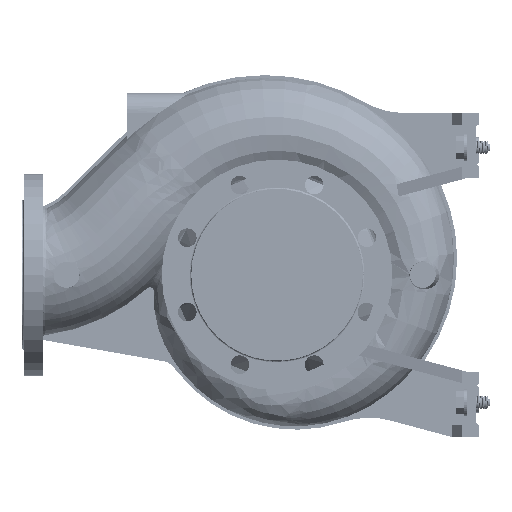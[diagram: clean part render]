
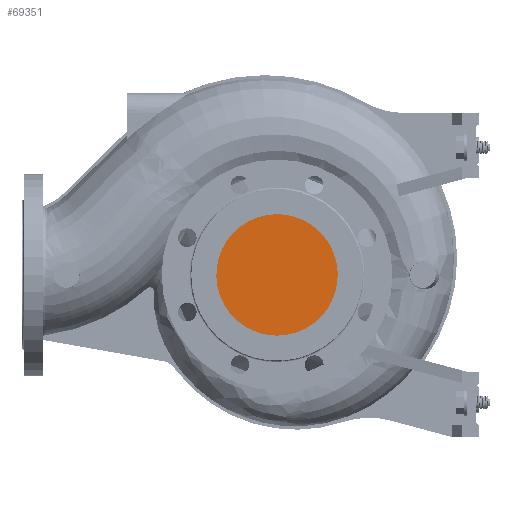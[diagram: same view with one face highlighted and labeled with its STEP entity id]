
A CAD part, left-side view. The second image highlights one B-rep face of the part: STEP entity #69351.
In plain terms, the highlighted planar face has unit normal (-1, 0, 0).
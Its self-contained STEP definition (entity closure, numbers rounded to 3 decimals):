
#928 = VERTEX_POINT ( 'NONE', #35794 ) ;
#4816 = CARTESIAN_POINT ( 'NONE',  ( -138., -76.373, -75.9 ) ) ;
#6345 = CARTESIAN_POINT ( 'NONE',  ( -138., 0., 75. ) ) ;
#8124 = CARTESIAN_POINT ( 'NONE',  ( -138., 41.937, -62.763 ) ) ;
#12812 = B_SPLINE_CURVE_WITH_KNOTS ( 'NONE', 3,
 ( #6345, #43821, #51849, #79258, #162281, #149491, #106627, #50077, #175095, #117632, #92954, #93868, #134886, #148598, #133073, #132193, #8124, #105751, #107532, #175988, #103945, #65586, #121184 ),
 .UNSPECIFIED., .F., .F.,
 ( 4, 1, 1, 1, 1, 1, 1, 1, 1, 1, 1, 1, 1, 1, 1, 1, 1, 1, 1, 1, 4 ),
 ( 0., 0.015, 0.029, 0.044, 0.059, 0.074, 0.088, 0.103, 0.118, 0.133, 0.147, 0.155, 0.162, 0.169, 0.177, 0.191, 0.206, 0.214, 0.221, 0.228, 0.236 ),
 .UNSPECIFIED. ) ;
#14297 = CARTESIAN_POINT ( 'NONE',  ( -138., -21.807, -71.886 ) ) ;
#14922 = PLANE ( 'NONE',  #162364 ) ;
#14929 = VERTEX_POINT ( 'NONE', #167201 ) ;
#16112 = CARTESIAN_POINT ( 'NONE',  ( -138., -41.936, 62.762 ) ) ;
#17930 = CARTESIAN_POINT ( 'NONE',  ( -138., -14.726, 74.033 ) ) ;
#28584 = FACE_OUTER_BOUND ( 'NONE', #125689, .T. ) ;
#29815 = CARTESIAN_POINT ( 'NONE',  ( -138., -70.45, -26.534 ) ) ;
#31384 = B_SPLINE_CURVE_WITH_KNOTS ( 'NONE', 3,
 ( #112810, #139248, #170283, #125583, #14297, #58085, #100059, #45271, #154785, #114642, #100939, #29815, #99140, #156592, #87268, #169387, #85456, #69961, #16112, #129206, #17930, #98222, #167575 ),
 .UNSPECIFIED., .F., .F.,
 ( 4, 1, 1, 1, 1, 1, 1, 1, 1, 1, 1, 1, 1, 1, 1, 1, 1, 1, 1, 1, 4 ),
 ( 0., 0.007, 0.015, 0.022, 0.029, 0.044, 0.059, 0.066, 0.074, 0.081, 0.088, 0.103, 0.118, 0.133, 0.147, 0.162, 0.177, 0.191, 0.206, 0.221, 0.236 ),
 .UNSPECIFIED. ) ;
#35794 = CARTESIAN_POINT ( 'NONE',  ( -138., 0., 75. ) ) ;
#43821 = CARTESIAN_POINT ( 'NONE',  ( -138., 4.909, 75. ) ) ;
#45271 = CARTESIAN_POINT ( 'NONE',  ( -138., -51.474, -54.933 ) ) ;
#50077 = CARTESIAN_POINT ( 'NONE',  ( -138., 69.738, 28.886 ) ) ;
#51849 = CARTESIAN_POINT ( 'NONE',  ( -138., 14.726, 74.033 ) ) ;
#58085 = CARTESIAN_POINT ( 'NONE',  ( -138., -31.054, -68.578 ) ) ;
#65586 = CARTESIAN_POINT ( 'NONE',  ( -138., 2.453, -75. ) ) ;
#69351 = ADVANCED_FACE ( 'NONE', ( #28584 ), #14922, .T. ) ;
#69961 = CARTESIAN_POINT ( 'NONE',  ( -138., -53.375, 53.375 ) ) ;
#79258 = CARTESIAN_POINT ( 'NONE',  ( -138., 28.886, 69.738 ) ) ;
#85456 = CARTESIAN_POINT ( 'NONE',  ( -138., -62.762, 41.936 ) ) ;
#87268 = CARTESIAN_POINT ( 'NONE',  ( -138., -74.033, 14.726 ) ) ;
#87359 = ORIENTED_EDGE ( 'NONE', *, *, #123652, .T. ) ;
#92954 = CARTESIAN_POINT ( 'NONE',  ( -138., 74.034, -14.724 ) ) ;
#93868 = CARTESIAN_POINT ( 'NONE',  ( -138., 70.45, -26.534 ) ) ;
#98222 = CARTESIAN_POINT ( 'NONE',  ( -138., -4.909, 75. ) ) ;
#98353 = EDGE_CURVE ( 'NONE', #928, #14929, #12812, .T. ) ;
#99140 = CARTESIAN_POINT ( 'NONE',  ( -138., -74.034, -14.724 ) ) ;
#100059 = CARTESIAN_POINT ( 'NONE',  ( -138., -41.937, -62.763 ) ) ;
#100939 = CARTESIAN_POINT ( 'NONE',  ( -138., -66.25, -35.411 ) ) ;
#103945 = CARTESIAN_POINT ( 'NONE',  ( -138., 7.364, -74.759 ) ) ;
#105142 = DIRECTION ( 'NONE',  ( -1., 0., 0. ) ) ;
#105751 = CARTESIAN_POINT ( 'NONE',  ( -138., 31.054, -68.578 ) ) ;
#106627 = CARTESIAN_POINT ( 'NONE',  ( -138., 62.762, 41.936 ) ) ;
#107532 = CARTESIAN_POINT ( 'NONE',  ( -138., 21.807, -71.886 ) ) ;
#112810 = CARTESIAN_POINT ( 'NONE',  ( -138., 0., -75. ) ) ;
#114642 = CARTESIAN_POINT ( 'NONE',  ( -138., -62.461, -41.735 ) ) ;
#117632 = CARTESIAN_POINT ( 'NONE',  ( -138., 75.483, 0. ) ) ;
#121184 = CARTESIAN_POINT ( 'NONE',  ( -138., 0., -75. ) ) ;
#123652 = EDGE_CURVE ( 'NONE', #14929, #928, #31384, .T. ) ;
#125583 = CARTESIAN_POINT ( 'NONE',  ( -138., -14.655, -73.677 ) ) ;
#125689 = EDGE_LOOP ( 'NONE', ( #87359, #131132 ) ) ;
#129206 = CARTESIAN_POINT ( 'NONE',  ( -138., -28.886, 69.738 ) ) ;
#131132 = ORIENTED_EDGE ( 'NONE', *, *, #98353, .T. ) ;
#131597 = DIRECTION ( 'NONE',  ( 0., 0., 1. ) ) ;
#132193 = CARTESIAN_POINT ( 'NONE',  ( -138., 51.474, -54.933 ) ) ;
#133073 = CARTESIAN_POINT ( 'NONE',  ( -138., 58.069, -47.656 ) ) ;
#134886 = CARTESIAN_POINT ( 'NONE',  ( -138., 66.25, -35.411 ) ) ;
#139248 = CARTESIAN_POINT ( 'NONE',  ( -138., -2.453, -75. ) ) ;
#148598 = CARTESIAN_POINT ( 'NONE',  ( -138., 62.461, -41.735 ) ) ;
#149491 = CARTESIAN_POINT ( 'NONE',  ( -138., 53.375, 53.375 ) ) ;
#154785 = CARTESIAN_POINT ( 'NONE',  ( -138., -58.069, -47.656 ) ) ;
#156592 = CARTESIAN_POINT ( 'NONE',  ( -138., -75.483, 0. ) ) ;
#162281 = CARTESIAN_POINT ( 'NONE',  ( -138., 41.936, 62.762 ) ) ;
#162364 = AXIS2_PLACEMENT_3D ( 'NONE', #4816, #105142, #131597 ) ;
#167201 = CARTESIAN_POINT ( 'NONE',  ( -138., 0., -75. ) ) ;
#167575 = CARTESIAN_POINT ( 'NONE',  ( -138., 0., 75. ) ) ;
#169387 = CARTESIAN_POINT ( 'NONE',  ( -138., -69.738, 28.886 ) ) ;
#170283 = CARTESIAN_POINT ( 'NONE',  ( -138., -7.364, -74.759 ) ) ;
#175095 = CARTESIAN_POINT ( 'NONE',  ( -138., 74.033, 14.726 ) ) ;
#175988 = CARTESIAN_POINT ( 'NONE',  ( -138., 14.655, -73.677 ) ) ;
